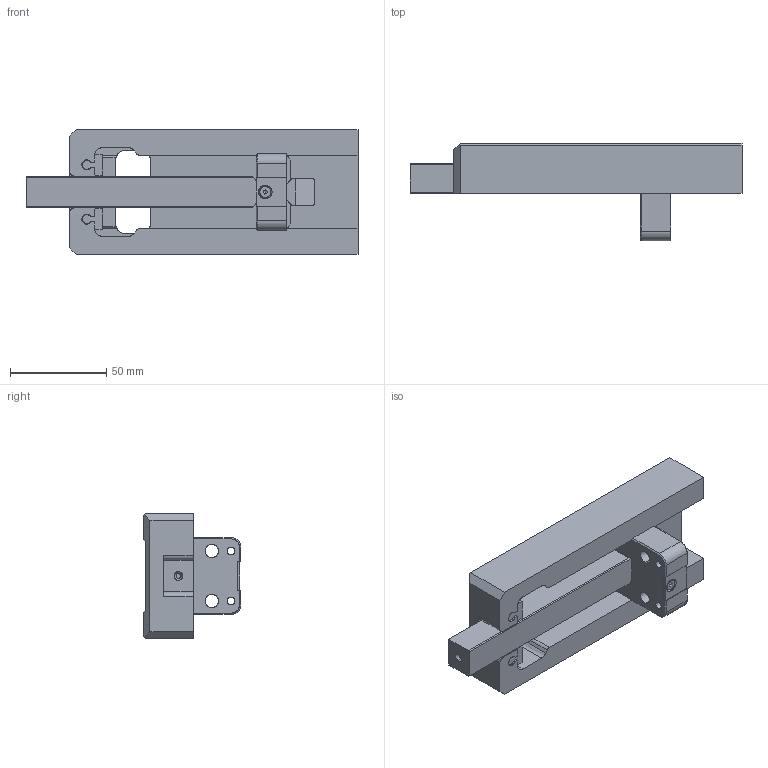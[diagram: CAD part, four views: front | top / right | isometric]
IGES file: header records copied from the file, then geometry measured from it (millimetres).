
Start section: SolidWorks IGES file using analytic representation for surfaces
Global section: file name: G:\CAD\Hakdrag\SA\SA-80(SA65)\SA-80-150-00.igs; native system: SolidWorks 2015; preprocessor: SolidWorks 2015; author: ChBe; date: 150616.070840; units: millimetre
Bounding box: 172.66 x 50.7 x 65 mm (x, y, z)
Surface area: 49998.9 mm2 (no closed solid volume)
Topology: 0 solids, 0 shells, 158 faces, 1800 edges, 1798 vertices
Faces by surface type: bspline 97, revolution 61
